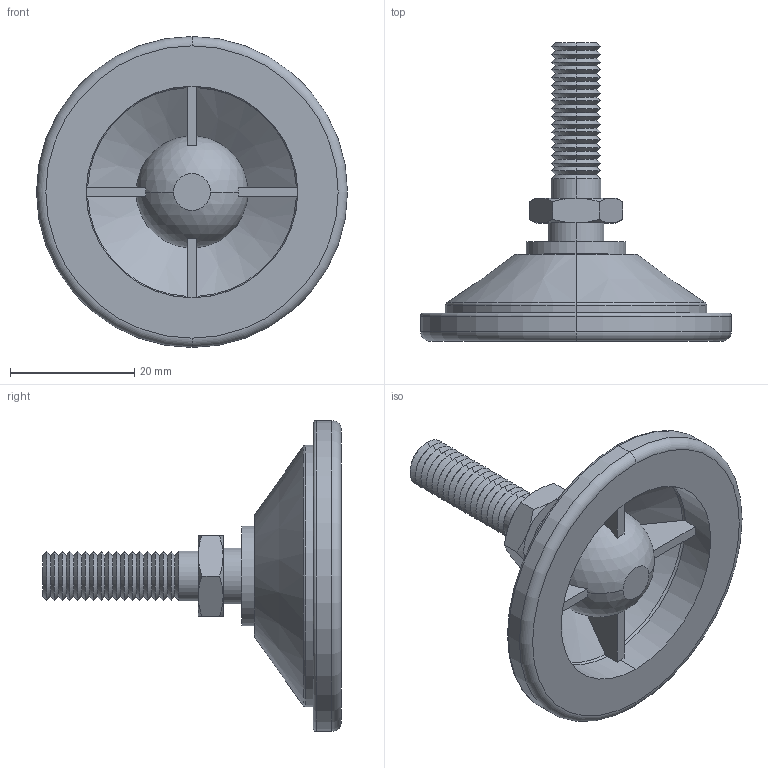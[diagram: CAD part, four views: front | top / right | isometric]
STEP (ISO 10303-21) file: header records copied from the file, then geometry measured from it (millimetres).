
FILE_DESCRIPTION (( 'STEP AP203' ), '1' );
FILE_NAME ('34741.W0081.step', '2016-09-22T07:38:02', ( 'User' ), ( '' ), 'SwSTEP 2.0', 'SolidWorks 2009', '' );
FILE_SCHEMA (( 'CONFIG_CONTROL_DESIGN' ));
Length unit declared in the file: millimetre
Products named in the file (3): Part2_34741.W0081; Part1_34741.W0081; 34741.W0081
Assembly tree (2 placements, depth 2):
  34741.W0081
    Part1_34741.W0081
    Part2_34741.W0081
Bounding box: 50 x 48 x 50 mm (x, y, z)
Volume: 13093 mm3; surface area: 8933.9 mm2
Topology: 2 solids, 2 shells, 148 faces, 332 edges, 190 vertices
Faces by surface type: cone 90, plane 26, cylinder 14, torus 12, sphere 6
Entity records: 4437 total; most frequent: CARTESIAN_POINT 861, DIRECTION 762, ORIENTED_EDGE 646, AXIS2_PLACEMENT_3D 326, EDGE_CURVE 323, VERTEX_POINT 185, CIRCLE 173, EDGE_LOOP 154
